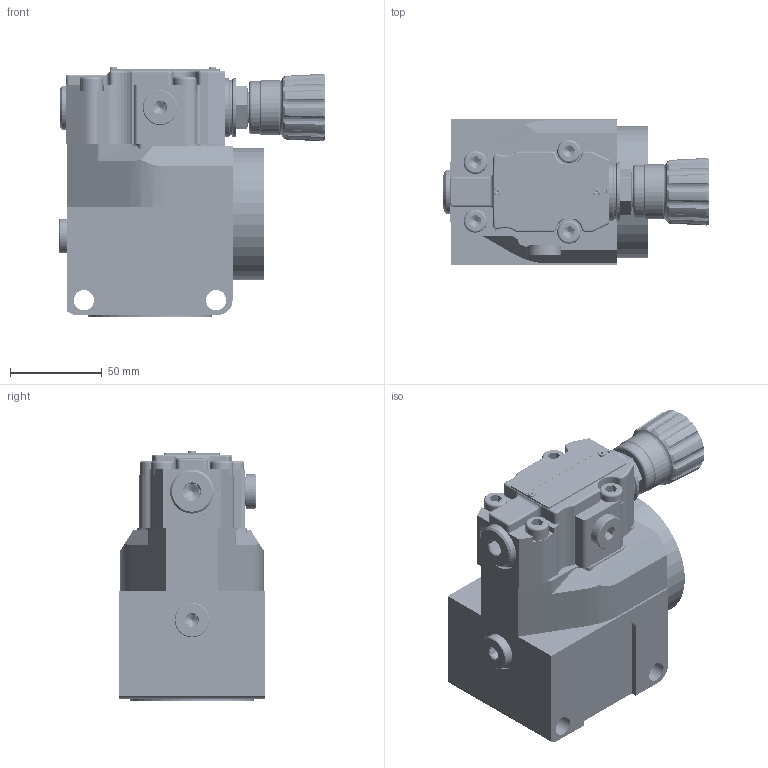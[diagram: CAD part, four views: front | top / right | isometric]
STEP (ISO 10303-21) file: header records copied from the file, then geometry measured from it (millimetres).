
FILE_DESCRIPTION(/* description */ (''),/* implementation_level */ '2;1');
FILE_NAME(/* name */ 'DB15G-1-5XJ.stp',/* time_stamp */ '2024-06-18T16:43:17+08:00',/* author */ (''),/* organization */ (''),/* preprocessor_version */ 'ST-DEVELOPER v16.7',/* originating_system */ 'SIEMENS PLM Software NX 12.0',/* authorisation */ '');
FILE_SCHEMA (('AUTOMOTIVE_DESIGN { 1 0 10303 214 3 1 1 1 }'));
Products named in the file (1): DB15G-1-5XJ
Bounding box: 145.2 x 80 x 136 mm (x, y, z)
Volume: 616085.3 mm3; surface area: 174866.3 mm2
Topology: 48 solids, 50 shells, 1237 faces, 3043 edges, 1934 vertices
Faces by surface type: cylinder 457, plane 426, cone 181, bspline 104, torus 65, sphere 4
Full cylindrical faces by diameter (mm): 1 x4, 1.5 x3, 1.8 x4, 1.9 x2, 2 x3, 3 x6, 3.3 x2, 3.4 x12, 4 x3, 4.2 x10, 4.5 x1, 5 x37, 5.4 x1, 5.5 x1, 6 x3, 6.7 x48, 7 x1, 8 x9, 8.28 x1, 8.3 x3, 8.4 x4, 9 x2, 9.5 x1, 10 x2, 11 x6, 11.093 x2, 11.1 x4, 11.5 x14, 12 x4, 12.1 x1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
Entity records: 142237 total; most frequent: CARTESIAN_POINT 119290, DIRECTION 4287, ORIENTED_EDGE 4226, EDGE_CURVE 2113, AXIS2_PLACEMENT_3D 1807, EDGE_LOOP 1569, VERTEX_POINT 1524, ADVANCED_FACE 1089
